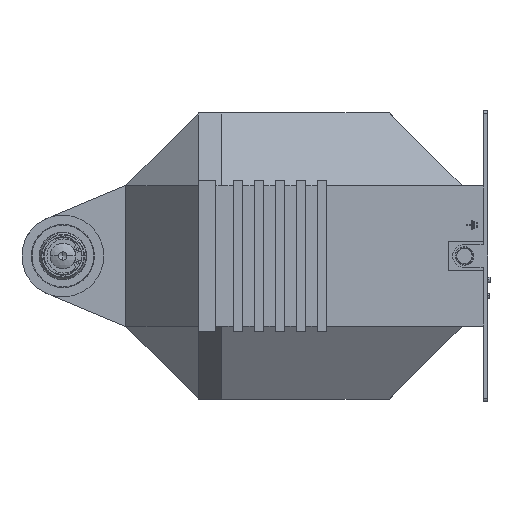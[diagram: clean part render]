
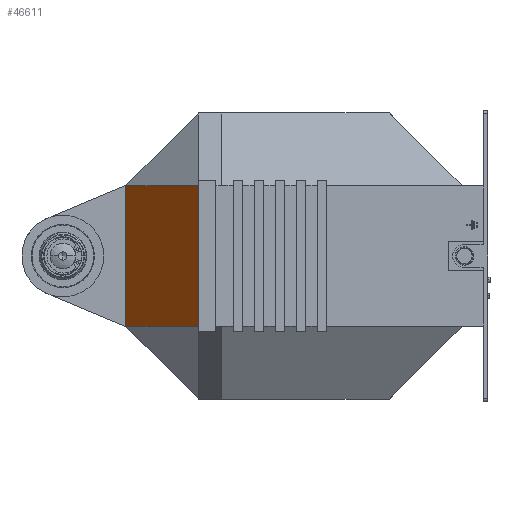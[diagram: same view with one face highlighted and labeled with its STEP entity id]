
A CAD part, left-side view. The second image highlights one B-rep face of the part: STEP entity #46611.
In plain terms, the highlighted planar face has unit normal (-0.613, 0.79, 0).
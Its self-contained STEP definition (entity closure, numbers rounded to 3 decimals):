
#1605 = EDGE_CURVE ( 'NONE', #9898, #24758, #30062, .T. ) ;
#1874 = EDGE_CURVE ( 'NONE', #14920, #47440, #9200, .T. ) ;
#1974 = ORIENTED_EDGE ( 'NONE', *, *, #1605, .F. ) ;
#4309 = LINE ( 'NONE', #43800, #38464 ) ;
#7034 = VECTOR ( 'NONE', #53616, 1000. ) ;
#9200 = LINE ( 'NONE', #21166, #19284 ) ;
#9898 = VERTEX_POINT ( 'NONE', #17381 ) ;
#10939 = PLANE ( 'NONE',  #26351 ) ;
#12769 = ORIENTED_EDGE ( 'NONE', *, *, #39694, .T. ) ;
#14920 = VERTEX_POINT ( 'NONE', #40121 ) ;
#15002 = CARTESIAN_POINT ( 'NONE',  ( -160., 91., 122.5 ) ) ;
#17381 = CARTESIAN_POINT ( 'NONE',  ( -160., 91., -60. ) ) ;
#18154 = DIRECTION ( 'NONE',  ( 0., 0., 1. ) ) ;
#18397 = LINE ( 'NONE', #15002, #7034 ) ;
#19284 = VECTOR ( 'NONE', #55407, 1000. ) ;
#19567 = DIRECTION ( 'NONE',  ( 0.79, 0.613, 0. ) ) ;
#20001 = VECTOR ( 'NONE', #27890, 1000. ) ;
#21166 = CARTESIAN_POINT ( 'NONE',  ( -160., 91., 60. ) ) ;
#21238 = CARTESIAN_POINT ( 'NONE',  ( -80., 153., 60.5 ) ) ;
#22200 = ORIENTED_EDGE ( 'NONE', *, *, #29310, .F. ) ;
#23594 = CARTESIAN_POINT ( 'NONE',  ( -80., 153., -60.5 ) ) ;
#24758 = VERTEX_POINT ( 'NONE', #28253 ) ;
#26351 = AXIS2_PLACEMENT_3D ( 'NONE', #53649, #45204, #19567 ) ;
#27890 = DIRECTION ( 'NONE',  ( 0.79, 0.613, -0.005 ) ) ;
#28253 = CARTESIAN_POINT ( 'NONE',  ( -80., 153., -60.5 ) ) ;
#29310 = EDGE_CURVE ( 'NONE', #24758, #47440, #4309, .T. ) ;
#30062 = LINE ( 'NONE', #23594, #20001 ) ;
#36871 = EDGE_LOOP ( 'NONE', ( #39394, #22200, #1974, #12769 ) ) ;
#38464 = VECTOR ( 'NONE', #18154, 1000. ) ;
#39394 = ORIENTED_EDGE ( 'NONE', *, *, #1874, .T. ) ;
#39694 = EDGE_CURVE ( 'NONE', #9898, #14920, #18397, .T. ) ;
#40121 = CARTESIAN_POINT ( 'NONE',  ( -160., 91., 60. ) ) ;
#43800 = CARTESIAN_POINT ( 'NONE',  ( -80., 153., -170. ) ) ;
#45204 = DIRECTION ( 'NONE',  ( 0.613, -0.79, 0. ) ) ;
#46611 = ADVANCED_FACE ( 'NONE', ( #51716 ), #10939, .F. ) ;
#47440 = VERTEX_POINT ( 'NONE', #21238 ) ;
#51716 = FACE_OUTER_BOUND ( 'NONE', #36871, .T. ) ;
#53616 = DIRECTION ( 'NONE',  ( 0., 0., 1. ) ) ;
#53649 = CARTESIAN_POINT ( 'NONE',  ( -80., 153., -170. ) ) ;
#55407 = DIRECTION ( 'NONE',  ( 0.79, 0.613, 0.005 ) ) ;
